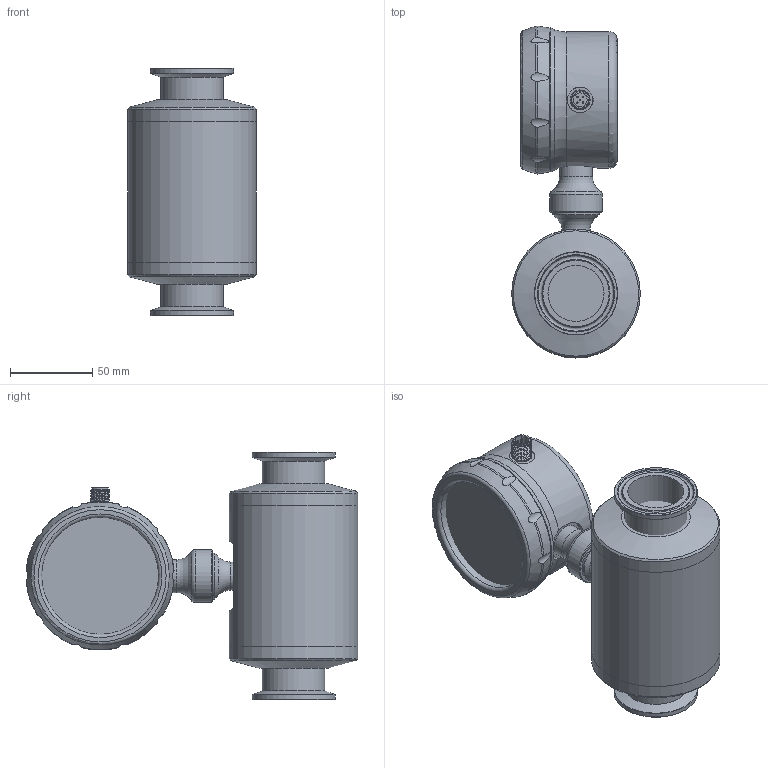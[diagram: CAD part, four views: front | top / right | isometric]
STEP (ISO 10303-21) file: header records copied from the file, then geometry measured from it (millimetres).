
FILE_DESCRIPTION( (''), '2;1');
FILE_NAME( 'QMKD_DN25_H50.5_tri-clamp.step', '2024-08-30T08:30:32+08:00', (''), (''), '', '', '');
FILE_SCHEMA (('AUTOMOTIVE_DESIGN { 1 0 10303 214 3 1 1 1 }'));
Length unit declared in the file: millimetre
Products named in the file (1): QMKD DN25_H50.5_tri-clamp
Bounding box: 78 x 201.37 x 150 mm (x, y, z)
Volume: 910967.5 mm3; surface area: 127552.9 mm2
Topology: 11 solids, 11 shells, 202 faces, 465 edges, 293 vertices
Faces by surface type: cylinder 74, plane 45, torus 28, cone 23, sphere 20, bspline 12
Full cylindrical faces by diameter (mm): 11.6 x1, 15 x2, 15.5 x1, 17 x1, 18 x1, 20 x1, 26 x1, 28 x1, 32 x1, 34 x2, 38 x2, 50.5 x2, 70 x2, 71 x1, 78 x3, 80 x2, 83 x1
Entity records: 7947 total; most frequent: CARTESIAN_POINT 3842, DIRECTION 829, ORIENTED_EDGE 724, AXIS2_PLACEMENT_3D 389, EDGE_CURVE 362, EDGE_LOOP 293, VERTEX_POINT 269, ADVANCED_FACE 201
